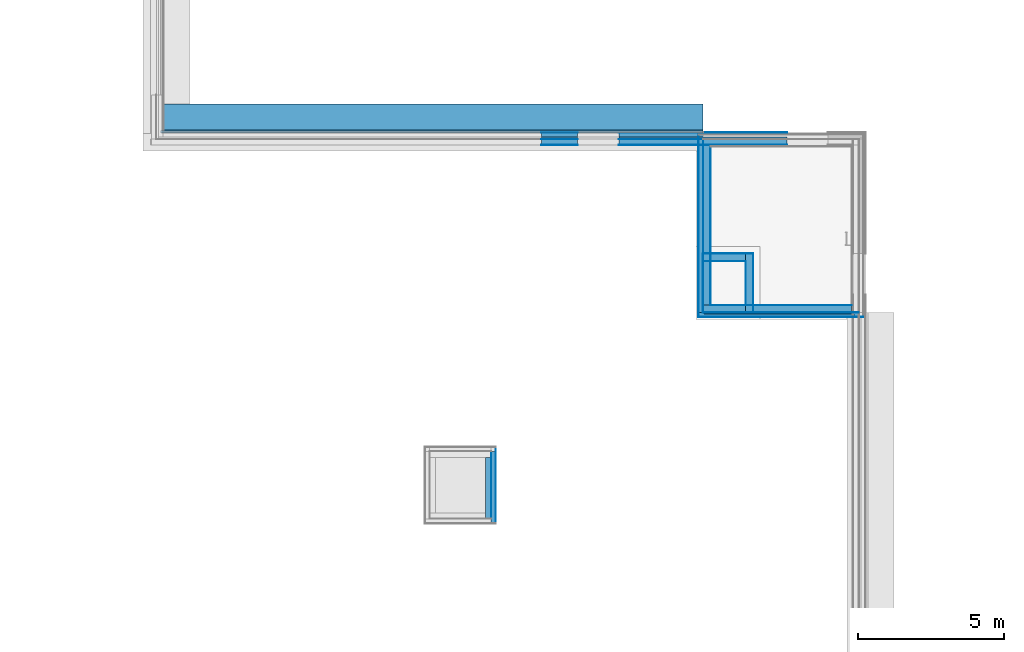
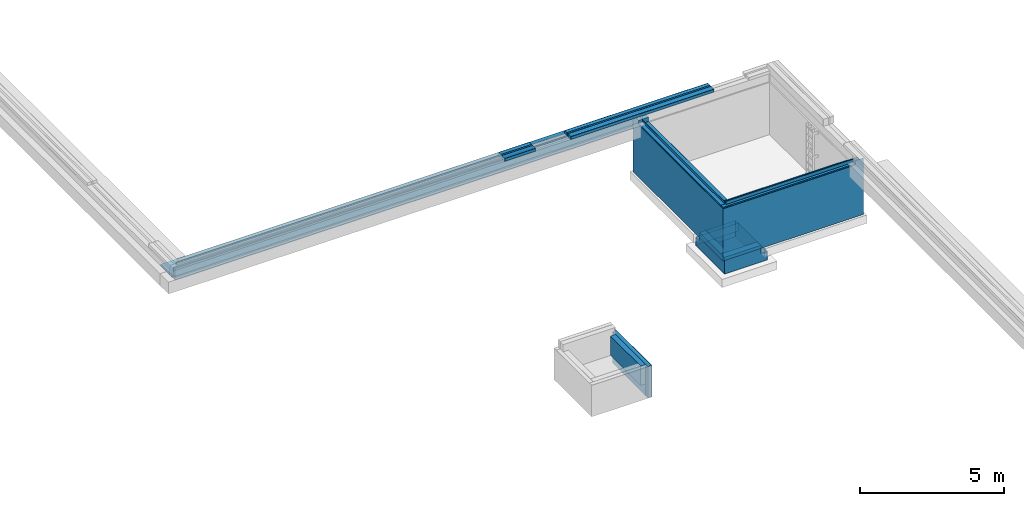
# One storey, part 7 of 17: 45 building element parts, 10 elements without a shape of their own.
"""IFC2X3 building model written with IfcOpenShell, lengths in millimetres."""

from ifc_helpers import new_model, entity, si_unit, converted_unit, derived_unit, money_unit, direction, frame, origin_with_axes, place, context, subcontext, project, spatial, faceted_brep, material, type_object, element, aggregate, save


model = new_model("IFC2X3")

# Units and contexts
model_context = context("Model", 3, precision=0.01, world=origin_with_axes(), true_north=direction((0.0, 1.0)))
body_context = subcontext(model_context, "Body", "Model", "MODEL_VIEW")
ifc_project = project(units=[si_unit("LENGTHUNIT", "METRE", prefix="MILLI"), si_unit("AREAUNIT", "SQUARE_METRE"), si_unit("VOLUMEUNIT", "CUBIC_METRE"), converted_unit("PLANEANGLEUNIT", "DEGREE", entity("IfcPlaneAngleMeasure", 0.0174532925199), si_unit("PLANEANGLEUNIT", "RADIAN"), dimensions=[0, 0, 0, 0, 0, 0, 0]), money_unit("EUR"), converted_unit("TIMEUNIT", "Year", entity("IfcTimeMeasure", 31556926.0), si_unit("TIMEUNIT", "SECOND"), dimensions=[0, 0, 1, 0, 0, 0, 0]), si_unit("MASSUNIT", "GRAM", prefix="KILO"), si_unit("THERMODYNAMICTEMPERATUREUNIT", "DEGREE_CELSIUS"), si_unit("LUMINOUSINTENSITYUNIT", "LUMEN"), si_unit("ENERGYUNIT", "JOULE", prefix="MEGA"), derived_unit("THERMALCONDUCTANCEUNIT", [(si_unit("POWERUNIT", "WATT"), 1), (si_unit("LENGTHUNIT", "METRE"), -1), (si_unit("THERMODYNAMICTEMPERATUREUNIT", "KELVIN"), -1)]), derived_unit("SPECIFICHEATCAPACITYUNIT", [(si_unit("ENERGYUNIT", "JOULE"), 1), (si_unit("MASSUNIT", "GRAM", prefix="KILO"), -1), (si_unit("THERMODYNAMICTEMPERATUREUNIT", "KELVIN"), -1)]), derived_unit("MASSDENSITYUNIT", [(si_unit("MASSUNIT", "GRAM", prefix="KILO"), 1), (si_unit("VOLUMEUNIT", "CUBIC_METRE"), -1)])], contexts=[model_context])

# Site, building, storey
site_placement = place(None, origin_with_axes())
site = spatial("IfcSite", under=ifc_project, at=site_placement, Name="Kolde pst 67a", CompositionType="ELEMENT")
building_placement = place(site_placement, origin_with_axes())
building = spatial("IfcBuilding", under=site, at=building_placement, Name="Riigigümnaasium", CompositionType="ELEMENT")
storey_placement = place(building_placement, frame((0.0, 0.0, -1500.0), z_axis=(0.0, 0.0, 1.0), x_axis=(1.0, 0.0, 0.0)))
storey = spatial("IfcBuildingStorey", under=building, at=storey_placement, Name="Vundament", CompositionType="ELEMENT", Elevation=-1500.0)

# Wall, building element parts
wall_type_1 = type_object("IfcWallType", Name="VS-RB-20/3_lintvundament 363", PredefinedType="NOTDEFINED")
wall_1_placement = place(storey_placement, frame((47874.9854607, 49769.9999599, -135.3), z_axis=(0.0, 0.0, 1.0), x_axis=(0.0, -1.0, 0.0)))
wall_1 = element("IfcWall", 1, at=wall_1_placement, inside=storey, type_object=wall_type_1, Name="Liftišaht")
ifc_material_1 = material(Name="_ALUSKATE - drenaaži- ja kaitsematt geotekstiiliga soojustuse kaitseks, Interplast Iso-Drain 8 Geo või samaväärne")
building_element_part_1_placement = place(wall_1_placement, origin_with_axes())
building_element_part_1 = element("IfcBuildingElementPart", 2, at=building_element_part_1_placement, material=ifc_material_1, Name="_ALUSKATE - drenaaži- ja kaitsematt geotekstiiliga soojustuse kaitseks, Interplast Iso-Drain 8 Geo või samaväärne", context=body_context, shape_type="Brep", body=[
    faceted_brep([(2463.0, 163.0, 1335.1), (-153.0, 163.0, 1335.1), (-153.0, 153.0, 1335.1), (2463.0, 153.0, 1335.1), (2463.0, 163.0, 0.0), (-153.0, 163.0, 0.0), (-153.0, 153.0, 0.0), (2463.0, 153.0, 0.0)], [[[0, 1, 2, 3]], [[4, 5, 1, 0]], [[2, 1, 5, 6]], [[3, 2, 6, 7]], [[3, 7, 4, 0]], [[7, 6, 5, 4]]]),
])
ifc_material_2 = material(Name="_SOOJUSTUS - vahtpolüstüreenplaadid EPS 120 Perimeeter, survetugevus min. 120kPa, veeimavus <2%, soojuserijuhtivus λD<0,036 W/(mK)")
building_element_part_2_placement = place(wall_1_placement, origin_with_axes())
building_element_part_2 = element("IfcBuildingElementPart", 3, at=building_element_part_2_placement, material=ifc_material_2, Name="_SOOJUSTUS - vahtpolüstüreenplaadid EPS 120 Perimeeter, survetugevus min. 120kPa, veeimavus <2%, soojuserijuhtivus λD<0,036 W/(mK)", context=body_context, shape_type="Brep", body=[
    faceted_brep([(2453.0, 153.0, 1335.1), (-3.0, 153.0, 1335.1), (-3.0, 3.0, 1335.1), (2453.0, 3.0, 1335.1), (2453.0, 153.0, 0.0), (-3.0, 153.0, 0.0), (-3.0, 3.0, 0.0), (2453.0, 3.0, 0.0)], [[[0, 1, 2, 3]], [[4, 5, 1, 0]], [[2, 1, 5, 6]], [[3, 2, 6, 7]], [[3, 7, 4, 0]], [[7, 6, 5, 4]]]),
])
ifc_material_3 = material(Name="_HÜDROISOLATSIOON - 3x SBS rullmaterjal vastavalt TL2 nõuetele, nakke tugevduseks betoonpind eelnevalt katta hüdroisolatsiooni bituumenvõõbaga")
building_element_part_3_placement = place(wall_1_placement, origin_with_axes())
building_element_part_3 = element("IfcBuildingElementPart", 4, at=building_element_part_3_placement, material=ifc_material_3, Name="_HÜDROISOLATSIOON - 3x SBS rullmaterjal vastavalt TL2 nõuetele, nakke tugevduseks betoonpind eelnevalt katta hüdroisolatsiooni bituumenvõõbaga", context=body_context, shape_type="Brep", body=[
    faceted_brep([(2303.0, 0.0, 1335.1), (2303.0, 3.0, 1335.1), (0.0, 3.0, 1335.1), (0.0, 0.0, 1335.1), (2303.0, 0.0, 0.0), (2303.0, 3.0, 0.0), (0.0, 3.0, 0.0), (0.0, 0.0, 0.0)], [[[0, 1, 2, 3]], [[1, 0, 4, 5]], [[1, 5, 6, 2]], [[7, 3, 2, 6]], [[4, 0, 3, 7]], [[5, 4, 7, 6]]]),
])
ifc_material_4 = material(Name="_KANDETARIND - monoliitne raudbetoon vastavalt EK osale")
building_element_part_4_placement = place(wall_1_placement, origin_with_axes())
building_element_part_4 = element("IfcBuildingElementPart", 5, at=building_element_part_4_placement, material=ifc_material_4, Name="_KANDETARIND - monoliitne raudbetoon vastavalt EK osale", context=body_context, shape_type="Brep", body=[
    faceted_brep([(2300.0, 0.0, 515.3), (200.0, 0.0, 515.3), (200.0, 0.0, 1335.1), (2300.0, 0.0, 1335.1), (200.0, -200.0, 515.3), (2300.0, -200.0, 515.3), (200.0, -200.0, 1335.1), (2300.0, -200.0, 1335.1)], [[[0, 1, 2, 3]], [[4, 1, 0, 5]], [[1, 4, 6, 2]], [[7, 3, 2, 6]], [[5, 0, 3, 7]], [[4, 5, 7, 6]]]),
])
aggregate(wall_1, [building_element_part_1, building_element_part_2, building_element_part_3, building_element_part_4])

wall_type_2 = type_object("IfcWallType", Name="Lintvundament 1602 x 765", PredefinedType="NOTDEFINED")
wall_2_placement = place(storey_placement, frame((55116.9820755, 60440.0001843, 1479.99999851), z_axis=(0.0, 0.0, 1.0), x_axis=(-1.0, 0.0, 0.0)))
wall_2 = element("IfcWall", 6, at=wall_2_placement, inside=storey, type_object=wall_type_2, Name="Vundament")
ifc_material_5 = material(Name="_SOOJUSTUS - vahtpolüstüreenplaadid EPS 120 Perimeeter, survetugevus min 120kPa, veeimavus <2%, soojuserijuhtivus λD<0,036 W/(mK)")
building_element_part_5_placement = place(wall_2_placement, origin_with_axes())
building_element_part_5 = element("IfcBuildingElementPart", 7, at=building_element_part_5_placement, material=ifc_material_5, Name="_SOOJUSTUS - vahtpolüstüreenplaadid EPS 120 Perimeeter, survetugevus min 120kPa, veeimavus <2%, soojuserijuhtivus λD<0,036 W/(mK)", context=body_context, shape_type="Brep", body=[
    faceted_brep([(18533.9254105, -303.057446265, -629.93015656), (18533.9254105, -303.057446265, -247.000007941), (0.0, -303.057446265, -246.99999851), (0.0, -303.057446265, -633.422240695), (18433.9253592, -303.057446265, -633.422240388), (18533.9254105, -203.057444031, -247.000007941), (18533.9254105, -203.057444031, -629.93015656), (0.0, -203.057444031, -246.99999851), (0.0, -203.057444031, -629.930162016)], [[[0, 1, 2, 3, 4]], [[5, 1, 0, 6]], [[1, 5, 7, 2]], [[3, 2, 7, 8]], [[6, 4, 3, 8]], [[6, 0, 4]], [[5, 6, 8, 7]]]),
])
building_element_part_6_placement = place(wall_2_placement, origin_with_axes())
building_element_part_6 = element("IfcBuildingElementPart", 8, at=building_element_part_6_placement, material=ifc_material_1, Name="_ALUSKATE - drenaaži- ja kaitsematt geotekstiiliga soojustuse kaitseks, Interplast Iso-Drain 8 Geo või samaväärne", context=body_context, shape_type="Brep", body=[
    faceted_brep([(18441.9828428, -313.057436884, -146.999993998), (18441.9828428, -313.057436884, -137.030570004), (0.0, -313.057436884, -137.030570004), (0.0, -313.057436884, -633.771447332), (18423.925396, -313.057436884, -633.771447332), (18433.9254023, -313.057436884, -633.422240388), (18433.9254049, -313.057436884, -146.999997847), (18441.9828428, -245.000004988, -137.030570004), (18441.9828428, -234.999993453, -146.999993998), (18441.9828428, -234.999993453, -29.9999946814), (18441.9828428, -245.000004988, -29.9999946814), (0.0, -245.000004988, -137.030570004), (0.0, -303.057440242, -146.999992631), (0.0, -303.057440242, -633.422236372), (0.0, -245.000004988, -29.9999946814), (0.0, -234.999993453, -29.9999946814), (0.0, -234.999993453, -146.999992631), (18433.9254023, -303.057440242, -633.422240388), (18433.9254049, -303.057440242, -146.999997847)], [[[0, 1, 2, 3, 4, 5, 6]], [[7, 1, 0, 8, 9, 10]], [[1, 7, 11, 2]], [[12, 13, 3, 2, 11, 14, 15, 16]], [[17, 4, 3, 13]], [[17, 5, 4]], [[5, 17, 18, 6]], [[8, 0, 6, 18, 12, 16]], [[9, 8, 16, 15]], [[10, 9, 15, 14]], [[7, 10, 14, 11]], [[13, 12, 18, 17]]]),
])
building_element_part_7_placement = place(wall_2_placement, origin_with_axes())
building_element_part_7 = element("IfcBuildingElementPart", 9, at=building_element_part_7_placement, material=ifc_material_5, Name="_SOOJUSTUS - vahtpolüstüreenplaadid EPS 120 Perimeeter, survetugevus min 120kPa, veeimavus <2%, soojuserijuhtivus λD<0,036 W/(mK)", context=body_context, shape_type="Brep", body=[
    faceted_brep([(18533.9254122, -203.057444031, -729.999992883), (18533.9254121, -203.057444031, -629.93015656), (18533.9254121, -313.057436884, -633.771447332), (18533.9254122, -1202.46588158, -664.830269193), (18533.9254122, -1200.19010474, -729.999992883), (0.0, -203.057444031, -729.999997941), (0.0, -203.057444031, -629.93015656), (0.0, -313.057436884, -633.771447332), (0.0, -1202.46588158, -664.830269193), (0.0, -1198.97593138, -764.769370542), (17538.0069265, -1198.97593138, -764.769370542), (17961.0538662, -1199.49168851, -750.000015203), (17961.0538662, -775.928984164, -750.000015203)], [[[0, 1, 2, 3, 4]], [[1, 0, 5, 6]], [[1, 6, 7, 2]], [[3, 2, 7, 8]], [[8, 9, 10, 11, 4, 3]], [[4, 11, 10, 12, 0]], [[5, 0, 12, 10, 9]], [[8, 7, 6, 5, 9]]]),
])
aggregate(wall_2, [building_element_part_5, building_element_part_6, building_element_part_7])

wall_type_3 = type_object("IfcWallType", Name="VS-RB-20/2_sokkel  443", PredefinedType="NOTDEFINED")
wall_3_placement = place(storey_placement, frame((50826.0353447, 60440.0001843, 1480.0), z_axis=(0.0, 0.0, 1.0), x_axis=(-1.0, 0.0, 0.0)))
wall_3 = element("IfcWall", 10, at=wall_3_placement, inside=storey, type_object=wall_type_3, Name="Sokkel")
ifc_material_6 = material(Name="_VIIMISTLUSKIHT - viimistlus vastavalt SA osale")
building_element_part_8_placement = place(wall_3_placement, origin_with_axes())
building_element_part_8 = element("IfcBuildingElementPart", 11, at=building_element_part_8_placement, material=ifc_material_6, Name="_VIIMISTLUSKIHT - viimistlus vastavalt SA osale", context=body_context, shape_type="Brep", body=[
    faceted_brep([(1236.02528927, 210.0, 0.0), (1236.02528927, 200.0, 0.0), (0.0, 200.0, 0.0), (0.0, 210.0, 0.0), (1236.02528927, 210.0, 120.0), (1236.02528927, 200.0, 120.0), (0.0, 200.0, 120.0), (0.0, 210.0, 120.0)], [[[0, 1, 2, 3]], [[0, 4, 5, 1]], [[1, 5, 6, 2]], [[3, 2, 6, 7]], [[4, 0, 3, 7]], [[5, 4, 7, 6]]]),
])
ifc_material_7 = material(Name="_KANDETARIND - monteeritav raudbetoon vastavalt EK osale")
building_element_part_9_placement = place(wall_3_placement, origin_with_axes())
building_element_part_9 = element("IfcBuildingElementPart", 12, at=building_element_part_9_placement, material=ifc_material_7, Name="_KANDETARIND - monteeritav raudbetoon vastavalt EK osale", context=body_context, shape_type="Brep", body=[
    faceted_brep([(1236.02528927, 200.0, 0.0), (1236.02528927, 0.0, 0.0), (0.0, 0.0, 0.0), (0.0, 200.0, 0.0), (1236.02528927, 200.0, 120.0), (1236.02528927, 0.0, 120.0), (0.0, 0.0, 120.0), (0.0, 200.0, 120.0)], [[[0, 1, 2, 3]], [[0, 4, 5, 1]], [[1, 5, 6, 2]], [[3, 2, 6, 7]], [[4, 0, 3, 7]], [[5, 4, 7, 6]]]),
])
building_element_part_10_placement = place(wall_3_placement, origin_with_axes())
building_element_part_10 = element("IfcBuildingElementPart", 13, at=building_element_part_10_placement, material=ifc_material_3, Name="_HÜDROISOLATSIOON - 3x SBS rullmaterjal vastavalt TL2 nõuetele, nakke tugevduseks betoonpind eelnevalt katta hüdroisolatsiooni bituumenvõõbaga", context=body_context, shape_type="Brep", body=[
    faceted_brep([(1236.02528927, 0.0, 0.0), (1236.02528927, -3.0, 0.0), (0.0, -3.0, 0.0), (0.0, 0.0, 0.0), (1236.02528927, 0.0, 120.0), (1236.02528927, -3.0, 120.0), (0.0, -3.0, 120.0), (0.0, 0.0, 120.0)], [[[0, 1, 2, 3]], [[0, 4, 5, 1]], [[1, 5, 6, 2]], [[3, 2, 6, 7]], [[4, 0, 3, 7]], [[5, 4, 7, 6]]]),
])
ifc_material_8 = material(Name="_SOOJUSTUS - ekstrudeeritud polüstüreenist plaadid XPS 250, survetugevus min 250kPa, soojuserijuhtivus λD<0,036 W/(mK), veeimavus alla 0,2%, näiteks XPS 250 foam SL või samaväärne")
building_element_part_11_placement = place(wall_3_placement, origin_with_axes())
building_element_part_11 = element("IfcBuildingElementPart", 14, at=building_element_part_11_placement, material=ifc_material_8, Name="_SOOJUSTUS - ekstrudeeritud polüstüreenist plaadid XPS 250, survetugevus min 250kPa, soojuserijuhtivus λD<0,036 W/(mK), veeimavus alla 0,2%, näiteks XPS 250 foam SL või samaväärne", context=body_context, shape_type="Brep", body=[
    faceted_brep([(1236.02528927, -3.0, 0.0), (1236.02528927, -73.0, 0.0), (0.0, -73.0, 0.0), (0.0, -3.0, 0.0), (1236.02528927, -3.0, 120.0), (1236.02528927, -73.0, 120.0), (0.0, -73.0, 120.0), (0.0, -3.0, 120.0)], [[[0, 1, 2, 3]], [[0, 4, 5, 1]], [[1, 5, 6, 2]], [[3, 2, 6, 7]], [[4, 0, 3, 7]], [[5, 4, 7, 6]]]),
])
building_element_part_12_placement = place(wall_3_placement, origin_with_axes())
building_element_part_12 = element("IfcBuildingElementPart", 15, at=building_element_part_12_placement, material=ifc_material_5, Name="_SOOJUSTUS - vahtpolüstüreenplaadid EPS 120 Perimeeter, survetugevus min 120kPa, veeimavus <2%, soojuserijuhtivus λD<0,036 W/(mK)", context=body_context, shape_type="Brep", body=[
    faceted_brep([(1236.02528927, -73.0, 0.0), (1236.02528927, -223.0, 0.0), (0.0, -223.0, 0.0), (0.0, -73.0, 0.0), (1236.02528927, -73.0, 120.0), (1236.02528927, -223.0, 120.0), (0.0, -223.0, 120.0), (0.0, -73.0, 120.0)], [[[0, 1, 2, 3]], [[0, 4, 5, 1]], [[1, 5, 6, 2]], [[3, 2, 6, 7]], [[4, 0, 3, 7]], [[5, 4, 7, 6]]]),
])
ifc_material_9 = material(Name="_TUULETÕKE - sokli krohv, silikoonvaikkrohv Weber.pas 481 AquaBalance 1mm \"scratch\" viimistlus, toon helehall CL444 (S 3502-Y) * 35, SILS süsteem, või samaväärne")
building_element_part_13_placement = place(wall_3_placement, origin_with_axes())
building_element_part_13 = element("IfcBuildingElementPart", 16, at=building_element_part_13_placement, material=ifc_material_9, Name="_TUULETÕKE - sokli krohv, silikoonvaikkrohv Weber.pas 481 AquaBalance 1mm \"scratch\" viimistlus, toon helehall CL444 (S 3502-Y) * 35, SILS süsteem, või samaväärne", context=body_context, shape_type="Brep", body=[
    faceted_brep([(1236.02528927, -223.0, 0.0), (1236.02528927, -233.0, 0.0), (0.0, -233.0, 0.0), (0.0, -223.0, 0.0), (1236.02528927, -223.0, 120.0), (1236.02528927, -233.0, 120.0), (0.0, -233.0, 120.0), (0.0, -223.0, 120.0)], [[[0, 1, 2, 3]], [[0, 4, 5, 1]], [[1, 5, 6, 2]], [[3, 2, 6, 7]], [[4, 0, 3, 7]], [[5, 4, 7, 6]]]),
])
aggregate(wall_3, [building_element_part_8, building_element_part_9, building_element_part_10, building_element_part_11, building_element_part_12, building_element_part_13])

wall_4_placement = place(storey_placement, frame((57983.2053324, 60440.0001843, 1480.0), z_axis=(0.0, 0.0, 1.0), x_axis=(-1.0, 0.0, 0.0)))
wall_4 = element("IfcWall", 17, at=wall_4_placement, inside=storey, type_object=wall_type_3, Name="Sokkel")
building_element_part_14_placement = place(wall_4_placement, origin_with_axes())
building_element_part_14 = element("IfcBuildingElementPart", 18, at=building_element_part_14_placement, material=ifc_material_6, Name="_VIIMISTLUSKIHT - viimistlus vastavalt SA osale", context=body_context, shape_type="Brep", body=[
    faceted_brep([(5740.77902513, 210.0, 0.0), (5740.77902513, 200.0, 0.0), (0.0, 200.0, 0.0), (0.0, 210.0, 0.0), (5740.77902513, 210.0, 120.0), (5740.77902513, 200.0, 120.0), (0.0, 200.0, 120.0), (0.0, 210.0, 120.0)], [[[0, 1, 2, 3]], [[0, 4, 5, 1]], [[1, 5, 6, 2]], [[3, 2, 6, 7]], [[4, 0, 3, 7]], [[5, 4, 7, 6]]]),
])
building_element_part_15_placement = place(wall_4_placement, origin_with_axes())
building_element_part_15 = element("IfcBuildingElementPart", 19, at=building_element_part_15_placement, material=ifc_material_7, Name="_KANDETARIND - monteeritav raudbetoon vastavalt EK osale", context=body_context, shape_type="Brep", body=[
    faceted_brep([(5740.77902513, 200.0, 0.0), (5740.77902513, 0.0, 0.0), (0.0, 0.0, 0.0), (0.0, 200.0, 0.0), (5740.77902513, 200.0, 120.0), (5740.77902513, 0.0, 120.0), (0.0, 0.0, 120.0), (0.0, 200.0, 120.0)], [[[0, 1, 2, 3]], [[0, 4, 5, 1]], [[1, 5, 6, 2]], [[3, 2, 6, 7]], [[4, 0, 3, 7]], [[5, 4, 7, 6]]]),
])
building_element_part_16_placement = place(wall_4_placement, origin_with_axes())
building_element_part_16 = element("IfcBuildingElementPart", 20, at=building_element_part_16_placement, material=ifc_material_3, Name="_HÜDROISOLATSIOON - 3x SBS rullmaterjal vastavalt TL2 nõuetele, nakke tugevduseks betoonpind eelnevalt katta hüdroisolatsiooni bituumenvõõbaga", context=body_context, shape_type="Brep", body=[
    faceted_brep([(5740.77902513, 0.0, 0.0), (5740.77902513, -3.0, 0.0), (0.0, -3.0, 0.0), (0.0, 0.0, 0.0), (5740.77902513, 0.0, 120.0), (5740.77902513, -3.0, 120.0), (0.0, -3.0, 120.0), (0.0, 0.0, 120.0)], [[[0, 1, 2, 3]], [[0, 4, 5, 1]], [[1, 5, 6, 2]], [[3, 2, 6, 7]], [[4, 0, 3, 7]], [[5, 4, 7, 6]]]),
])
building_element_part_17_placement = place(wall_4_placement, origin_with_axes())
building_element_part_17 = element("IfcBuildingElementPart", 21, at=building_element_part_17_placement, material=ifc_material_8, Name="_SOOJUSTUS - ekstrudeeritud polüstüreenist plaadid XPS 250, survetugevus min 250kPa, soojuserijuhtivus λD<0,036 W/(mK), veeimavus alla 0,2%, näiteks XPS 250 foam SL või samaväärne", context=body_context, shape_type="Brep", body=[
    faceted_brep([(5740.77902513, -3.0, 0.0), (5740.77902513, -73.0, 0.0), (0.0, -73.0, 0.0), (0.0, -3.0, 0.0), (5740.77902513, -3.0, 120.0), (5740.77902513, -73.0, 120.0), (0.0, -73.0, 120.0), (0.0, -3.0, 120.0)], [[[0, 1, 2, 3]], [[0, 4, 5, 1]], [[1, 5, 6, 2]], [[3, 2, 6, 7]], [[4, 0, 3, 7]], [[5, 4, 7, 6]]]),
])
building_element_part_18_placement = place(wall_4_placement, origin_with_axes())
building_element_part_18 = element("IfcBuildingElementPart", 22, at=building_element_part_18_placement, material=ifc_material_5, Name="_SOOJUSTUS - vahtpolüstüreenplaadid EPS 120 Perimeeter, survetugevus min 120kPa, veeimavus <2%, soojuserijuhtivus λD<0,036 W/(mK)", context=body_context, shape_type="Brep", body=[
    faceted_brep([(5740.77902513, -73.0, 0.0), (5740.77902513, -223.0, 0.0), (0.0, -223.0, 0.0), (0.0, -73.0, 0.0), (5740.77902513, -73.0, 120.0), (5740.77902513, -223.0, 120.0), (0.0, -223.0, 120.0), (0.0, -73.0, 120.0)], [[[0, 1, 2, 3]], [[0, 4, 5, 1]], [[1, 5, 6, 2]], [[3, 2, 6, 7]], [[4, 0, 3, 7]], [[5, 4, 7, 6]]]),
])
building_element_part_19_placement = place(wall_4_placement, origin_with_axes())
building_element_part_19 = element("IfcBuildingElementPart", 23, at=building_element_part_19_placement, material=ifc_material_9, Name="_TUULETÕKE - sokli krohv, silikoonvaikkrohv Weber.pas 481 AquaBalance 1mm \"scratch\" viimistlus, toon helehall CL444 (S 3502-Y) * 35, SILS süsteem, või samaväärne", context=body_context, shape_type="Brep", body=[
    faceted_brep([(5740.77902513, -223.0, 0.0), (5740.77902513, -233.0, 0.0), (0.0, -233.0, 0.0), (0.0, -223.0, 0.0), (5740.77902513, -223.0, 120.0), (5740.77902513, -233.0, 120.0), (0.0, -233.0, 120.0), (0.0, -223.0, 120.0)], [[[0, 1, 2, 3]], [[0, 4, 5, 1]], [[1, 5, 6, 2]], [[3, 2, 6, 7]], [[4, 0, 3, 7]], [[5, 4, 7, 6]]]),
])
aggregate(wall_4, [building_element_part_14, building_element_part_15, building_element_part_16, building_element_part_17, building_element_part_18, building_element_part_19])

wall_type_4 = type_object("IfcWallType", Name="VS-RB-25/1_mahuti sein 416", PredefinedType="NOTDEFINED")
wall_5_placement = place(storey_placement, frame((60439.9941222, 54520.0000583, -1065.2), z_axis=(0.0, 0.0, 1.0), x_axis=(-1.0, 0.0, 0.0)))
wall_5 = element("IfcWall", 24, at=wall_5_placement, inside=storey, type_object=wall_type_4, Name="Mahuti sein")
building_element_part_20_placement = place(wall_5_placement, origin_with_axes())
building_element_part_20 = element("IfcBuildingElementPart", 25, at=building_element_part_20_placement, material=ifc_material_1, Name="_ALUSKATE - drenaaži- ja kaitsematt geotekstiiliga soojustuse kaitseks, Interplast Iso-Drain 8 Geo või samaväärne", context=body_context, shape_type="Brep", body=[
    faceted_brep([(5486.01204667, 153.0, 2215.0), (173.733601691, 153.0, 2215.0), (173.733601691, 153.0, 2400.1), (-153.0, 153.0, 2400.1), (-153.0, 153.0, 0.0), (5486.01204667, 153.0, 0.0), (5486.01204667, 163.0, 2215.0), (173.733601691, 163.0, 2215.0), (173.733601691, 163.0, 2400.1), (-153.0, 163.0, 2400.1), (-153.0, 163.0, 0.0), (5486.01204667, 163.0, 0.0)], [[[0, 1, 2, 3, 4, 5]], [[1, 0, 6, 7]], [[2, 1, 7, 8]], [[2, 8, 9, 3]], [[4, 3, 9, 10]], [[11, 5, 4, 10]], [[6, 0, 5, 11]], [[7, 6, 11, 10, 9, 8]]]),
])
building_element_part_21_placement = place(wall_5_placement, origin_with_axes())
building_element_part_21 = element("IfcBuildingElementPart", 26, at=building_element_part_21_placement, material=ifc_material_8, Name="_SOOJUSTUS - ekstrudeeritud polüstüreenist plaadid XPS 250, survetugevus min 250kPa, soojuserijuhtivus λD<0,036 W/(mK), veeimavus alla 0,2%, näiteks XPS 250 foam SL või samaväärne", context=body_context, shape_type="Brep", body=[
    faceted_brep([(5296.74562016, 50.0, 2400.1), (5296.74562016, 50.0, 2265.0), (173.733601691, 50.0, 2265.0), (173.733601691, 50.0, 2400.1), (5296.74562016, 3.0, 2265.0), (5296.74562016, 3.0, 2400.1), (5476.01204667, 153.0, 2265.0), (173.733601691, 153.0, 2265.0), (5476.01204667, 3.0, 2265.0), (173.733601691, 153.0, 2400.1), (-3.0, 153.0, 2400.1), (-3.0, 3.0, 2400.1), (-3.0, 3.0, 0.0), (5476.01204667, 3.0, 0.0), (5476.01204667, 153.0, 0.0), (-3.0, 153.0, 0.0)], [[[0, 1, 2, 3]], [[4, 1, 0, 5]], [[6, 7, 2, 1, 4, 8]], [[3, 2, 7, 9]], [[5, 0, 3, 9, 10, 11]], [[4, 5, 11, 12, 13, 8]], [[7, 6, 14, 15, 10, 9]], [[6, 8, 13, 14]], [[12, 11, 10, 15]], [[14, 13, 12, 15]]]),
])
ifc_material_10 = material(Name="_HÜDROISOLATSIOON/RADOONITÕKE - eelpaigaldatav elastne hüdroisolatsioonimembraan, värske betooniga nakkuv, radoonitihe, FORSOC PROOFEX 3000 või samaväärne")
building_element_part_22_placement = place(wall_5_placement, origin_with_axes())
building_element_part_22 = element("IfcBuildingElementPart", 27, at=building_element_part_22_placement, material=ifc_material_10, Name="_HÜDROISOLATSIOON/RADOONITÕKE - eelpaigaldatav elastne hüdroisolatsioonimembraan, värske betooniga nakkuv, radoonitihe, FORSOC PROOFEX 3000 või samaväärne", context=body_context, shape_type="Brep", body=[
    faceted_brep([(5326.01204667, 0.0, 2365.0), (5296.74562016, 0.0, 2365.0), (5296.74562016, 0.0, 2400.1), (0.0, 0.0, 2400.1), (0.0, 0.0, 0.0), (5326.01204667, 0.0, 0.0), (5326.01204667, 3.0, 2365.0), (5296.74562016, 3.0, 2365.0), (5296.74562016, 3.0, 2400.1), (0.0, 3.0, 2400.1), (0.0, 3.0, 0.0), (5326.01204667, 3.0, 0.0)], [[[0, 1, 2, 3, 4, 5]], [[1, 0, 6, 7]], [[2, 1, 7, 8]], [[2, 8, 9, 3]], [[4, 3, 9, 10]], [[11, 5, 4, 10]], [[6, 0, 5, 11]], [[7, 6, 11, 10, 9, 8]]]),
])
ifc_material_11 = material(Name="_KANDETARIND - monoliitne raudbetoonplaat")
building_element_part_23_placement = place(wall_5_placement, origin_with_axes())
building_element_part_23 = element("IfcBuildingElementPart", 28, at=building_element_part_23_placement, material=ifc_material_11, Name="_KANDETARIND - monoliitne raudbetoonplaat", context=body_context, shape_type="Brep", body=[
    faceted_brep([(5323.01204667, -250.0, 2215.0), (250.0, -250.0, 2215.0), (250.0, -250.0, 0.0), (5323.01204667, -250.0, 0.0), (250.0, 0.0, 2215.0), (5323.01204667, 0.0, 2215.0), (250.0, 0.0, 0.0), (5323.01204667, 0.0, 0.0)], [[[0, 1, 2, 3]], [[4, 1, 0, 5]], [[1, 4, 6, 2]], [[7, 3, 2, 6]], [[5, 0, 3, 7]], [[4, 5, 7, 6]]]),
])
building_element_part_24_placement = place(wall_5_placement, origin_with_axes())
building_element_part_24 = element("IfcBuildingElementPart", 29, at=building_element_part_24_placement, material=ifc_material_10, Name="_HÜDROISOLATSIOON/RADOONITÕKE - eelpaigaldatav elastne hüdroisolatsioonimembraan, värske betooniga nakkuv, radoonitihe, FORSOC PROOFEX 3000 või samaväärne", context=body_context, shape_type="Brep", body=[
    faceted_brep([(5073.01204667, -253.0, 2215.0), (253.0, -253.0, 2215.0), (253.0, -253.0, 0.0), (5073.01204667, -253.0, 0.0), (253.0, -250.0, 2215.0), (5073.01204667, -250.0, 2215.0), (253.0, -250.0, 0.0), (5073.01204667, -250.0, 0.0)], [[[0, 1, 2, 3]], [[4, 1, 0, 5]], [[1, 4, 6, 2]], [[7, 3, 2, 6]], [[5, 0, 3, 7]], [[4, 5, 7, 6]]]),
])
aggregate(wall_5, [building_element_part_20, building_element_part_21, building_element_part_22, building_element_part_23, building_element_part_24])

wall_6_placement = place(storey_placement, frame((55116.9820755, 54520.0000583, -1065.2), z_axis=(0.0, 0.0, 1.0), x_axis=(0.0, 1.0, 0.0)))
wall_6 = element("IfcWall", 30, at=wall_6_placement, inside=storey, type_object=wall_type_4, Name="Mahuti sein")
building_element_part_25_placement = place(wall_6_placement, origin_with_axes())
building_element_part_25 = element("IfcBuildingElementPart", 31, at=building_element_part_25_placement, material=ifc_material_1, Name="_ALUSKATE - drenaaži- ja kaitsematt geotekstiiliga soojustuse kaitseks, Interplast Iso-Drain 8 Geo või samaväärne", context=body_context, shape_type="Brep", body=[
    faceted_brep([(5720.48152417, 163.0, 2400.1), (5720.48152417, 163.0, 2215.0), (5720.48178384, 153.0, 2215.0), (5720.48178384, 153.0, 2400.1), (6083.00012603, 163.0, 2400.1), (6083.00012603, 163.0, 0.0), (-153.0, 163.0, 0.0), (-153.0, 163.0, 2215.0), (-153.0, 153.0, 2215.0), (-153.0, 153.0, 0.0), (6083.00012603, 153.0, 0.0), (6083.00012603, 153.0, 2400.1)], [[[0, 1, 2, 3]], [[1, 0, 4, 5, 6, 7]], [[8, 2, 1, 7]], [[2, 8, 9, 10, 11, 3]], [[0, 3, 11, 4]], [[4, 11, 10, 5]], [[5, 10, 9, 6]], [[8, 7, 6, 9]]]),
])
building_element_part_26_placement = place(wall_6_placement, origin_with_axes())
building_element_part_26 = element("IfcBuildingElementPart", 32, at=building_element_part_26_placement, material=ifc_material_8, Name="_SOOJUSTUS - ekstrudeeritud polüstüreenist plaadid XPS 250, survetugevus min 250kPa, soojuserijuhtivus λD<0,036 W/(mK), veeimavus alla 0,2%, näiteks XPS 250 foam SL või samaväärne", context=body_context, shape_type="Brep", body=[
    faceted_brep([(5720.48178384, 153.0, 2400.1), (5720.48178384, 153.0, 2265.0), (5720.48567887, 3.0, 2265.0), (5720.48567887, 3.0, 2400.1), (6073.00012603, 153.0, 2400.1), (6073.00012603, 153.0, 0.0), (-3.0, 153.0, 0.0), (-3.0, 153.0, 2265.0), (-3.0, 3.0, 2265.0), (-3.0, 3.0, 0.0), (6073.00012603, 3.0, 0.0), (6073.00012603, 3.0, 2400.1)], [[[0, 1, 2, 3]], [[1, 0, 4, 5, 6, 7]], [[8, 2, 1, 7]], [[2, 8, 9, 10, 11, 3]], [[0, 3, 11, 4]], [[4, 11, 10, 5]], [[5, 10, 9, 6]], [[8, 7, 6, 9]]]),
])
building_element_part_27_placement = place(wall_6_placement, origin_with_axes())
building_element_part_27 = element("IfcBuildingElementPart", 33, at=building_element_part_27_placement, material=ifc_material_10, Name="_HÜDROISOLATSIOON/RADOONITÕKE - eelpaigaldatav elastne hüdroisolatsioonimembraan, värske betooniga nakkuv, radoonitihe, FORSOC PROOFEX 3000 või samaväärne", context=body_context, shape_type="Brep", body=[
    faceted_brep([(5720.48567887, 3.0, 2400.1), (5720.48567887, 3.0, 2365.0), (5720.48575677, 0.0, 2365.0), (5720.48575677, 0.0, 2400.1), (5923.00012603, 3.0, 2400.1), (5923.00012603, 3.0, 0.0), (0.0, 3.0, 0.0), (0.0, 3.0, 2365.0), (0.0, 0.0, 2365.0), (0.0, 0.0, 0.0), (5923.00012603, 0.0, 0.0), (5923.00012603, 0.0, 2400.1)], [[[0, 1, 2, 3]], [[1, 0, 4, 5, 6, 7]], [[8, 2, 1, 7]], [[2, 8, 9, 10, 11, 3]], [[0, 3, 11, 4]], [[4, 11, 10, 5]], [[5, 10, 9, 6]], [[8, 7, 6, 9]]]),
])
building_element_part_28_placement = place(wall_6_placement, origin_with_axes())
building_element_part_28 = element("IfcBuildingElementPart", 34, at=building_element_part_28_placement, material=ifc_material_11, Name="_KANDETARIND - monoliitne raudbetoonplaat", context=body_context, shape_type="Brep", body=[
    faceted_brep([(5720.00012603, 0.0, 2400.1), (5720.00012603, -250.0, 2400.1), (5920.00012603, -250.0, 2400.1), (5920.00012603, 0.0, 2400.1), (5720.00012603, -250.0, 2215.0), (5720.00012603, 0.0, 2215.0), (250.0, -250.0, 2215.0), (250.0, -250.0, 0.0), (5920.00012603, -250.0, 0.0), (5920.00012603, 0.0, 0.0), (250.0, 0.0, 0.0), (250.0, 0.0, 2215.0)], [[[0, 1, 2, 3]], [[4, 1, 0, 5]], [[4, 6, 7, 8, 2, 1]], [[3, 2, 8, 9]], [[5, 0, 3, 9, 10, 11]], [[6, 4, 5, 11]], [[6, 11, 10, 7]], [[9, 8, 7, 10]]]),
])
building_element_part_29_placement = place(wall_6_placement, origin_with_axes())
building_element_part_29 = element("IfcBuildingElementPart", 35, at=building_element_part_29_placement, material=ifc_material_10, Name="_HÜDROISOLATSIOON/RADOONITÕKE - eelpaigaldatav elastne hüdroisolatsioonimembraan, värske betooniga nakkuv, radoonitihe, FORSOC PROOFEX 3000 või samaväärne", context=body_context, shape_type="Brep", body=[
    faceted_brep([(5670.00012603, -250.0, 2215.0), (5670.00012603, -253.0, 2215.0), (5670.00012603, -253.0, 0.0), (5670.00012603, -250.0, 0.0), (253.0, -253.0, 2215.0), (253.0, -250.0, 2215.0), (253.0, -253.0, 0.0), (253.0, -250.0, 0.0)], [[[0, 1, 2, 3]], [[4, 1, 0, 5]], [[1, 4, 6, 2]], [[3, 2, 6, 7]], [[5, 0, 3, 7]], [[4, 5, 7, 6]]]),
])
aggregate(wall_6, [building_element_part_25, building_element_part_26, building_element_part_27, building_element_part_28, building_element_part_29])

wall_type_5 = type_object("IfcWallType", Name="VS-RB-25/2_mahuti sein soojustamata 266", PredefinedType="NOTDEFINED")
wall_7_placement = place(storey_placement, frame((56823.0142027, 54520.0000583, -1765.2), z_axis=(0.0, 0.0, 1.0), x_axis=(0.0, 1.0, 0.0)))
wall_7 = element("IfcWall", 36, at=wall_7_placement, inside=storey, type_object=wall_type_5, Name="Mahuti sein")
building_element_part_30_placement = place(wall_7_placement, origin_with_axes())
building_element_part_30 = element("IfcBuildingElementPart", 37, at=building_element_part_30_placement, material=ifc_material_10, Name="_HÜDROISOLATSIOON/RADOONITÕKE - eelpaigaldatav elastne hüdroisolatsioonimembraan, värske betooniga nakkuv, radoonitihe, FORSOC PROOFEX 3000 või samaväärne", context=body_context, shape_type="Brep", body=[
    faceted_brep([(1753.0, 250.0, 0.0), (250.0, 250.0, 0.0), (250.0, 253.0, 0.0), (1753.0, 253.0, 0.0), (1753.0, 250.0, 700.0), (250.0, 250.0, 700.0), (250.0, 253.0, 700.0), (1753.0, 253.0, 700.0)], [[[0, 1, 2, 3]], [[4, 5, 1, 0]], [[2, 1, 5, 6]], [[3, 2, 6, 7]], [[3, 7, 4, 0]], [[7, 6, 5, 4]]]),
])
building_element_part_31_placement = place(wall_7_placement, origin_with_axes())
building_element_part_31 = element("IfcBuildingElementPart", 38, at=building_element_part_31_placement, material=ifc_material_11, Name="_KANDETARIND - monoliitne raudbetoonplaat", context=body_context, shape_type="Brep", body=[
    faceted_brep([(2003.0, 250.0, 350.0), (2003.0, 0.0, 350.0), (2003.0, 0.0, 0.0), (2003.0, 250.0, 0.0), (0.0, 0.0, 350.0), (0.0, 250.0, 350.0), (0.0, 0.0, 0.0), (0.0, 250.0, 0.0)], [[[0, 1, 2, 3]], [[4, 1, 0, 5]], [[1, 4, 6, 2]], [[3, 2, 6, 7]], [[5, 0, 3, 7]], [[4, 5, 7, 6]]]),
])
building_element_part_32_placement = place(wall_7_placement, origin_with_axes())
building_element_part_32 = element("IfcBuildingElementPart", 39, at=building_element_part_32_placement, material=ifc_material_10, Name="_HÜDROISOLATSIOON/RADOONITÕKE - eelpaigaldatav elastne hüdroisolatsioonimembraan, värske betooniga nakkuv, radoonitihe, FORSOC PROOFEX 3000 või samaväärne", context=body_context, shape_type="Brep", body=[
    faceted_brep([(2006.0, 0.0, 350.0), (2006.0, -3.0, 350.0), (2006.0, -3.0, 0.0), (2006.0, 0.0, 0.0), (-3.0, -3.0, 350.0), (-3.0, 0.0, 350.0), (-3.0, -3.0, 0.0), (-3.0, 0.0, 0.0)], [[[0, 1, 2, 3]], [[4, 1, 0, 5]], [[1, 4, 6, 2]], [[3, 2, 6, 7]], [[5, 0, 3, 7]], [[4, 5, 7, 6]]]),
])
building_element_part_33_placement = place(wall_7_placement, origin_with_axes())
building_element_part_33 = element("IfcBuildingElementPart", 40, at=building_element_part_33_placement, material=ifc_material_1, Name="_ALUSKATE - drenaaži- ja kaitsematt geotekstiiliga soojustuse kaitseks, Interplast Iso-Drain 8 Geo või samaväärne", context=body_context, shape_type="Brep", body=[
    faceted_brep([(2016.0, -3.0, 350.0), (2016.0, -13.0, 350.0), (2016.0, -13.0, 0.0), (2016.0, -3.0, 0.0), (-13.0, -13.0, 350.0), (-13.0, -3.0, 350.0), (-13.0, -13.0, 0.0), (-13.0, -3.0, 0.0)], [[[0, 1, 2, 3]], [[4, 1, 0, 5]], [[1, 4, 6, 2]], [[3, 2, 6, 7]], [[5, 0, 3, 7]], [[4, 5, 7, 6]]]),
])
aggregate(wall_7, [building_element_part_30, building_element_part_31, building_element_part_32, building_element_part_33])

wall_8_placement = place(storey_placement, frame((56823.0142027, 56523.0000583, -1765.2), z_axis=(0.0, 0.0, 1.0), x_axis=(-1.0, 0.0, 0.0)))
wall_8 = element("IfcWall", 41, at=wall_8_placement, inside=storey, type_object=wall_type_5, Name="Mahuti sein")
building_element_part_34_placement = place(wall_8_placement, origin_with_axes())
building_element_part_34 = element("IfcBuildingElementPart", 42, at=building_element_part_34_placement, material=ifc_material_10, Name="_HÜDROISOLATSIOON/RADOONITÕKE - eelpaigaldatav elastne hüdroisolatsioonimembraan, värske betooniga nakkuv, radoonitihe, FORSOC PROOFEX 3000 või samaväärne", context=body_context, shape_type="Brep", body=[
    faceted_brep([(1706.03212711, 253.0, 0.0), (1706.03212711, 250.0, 0.0), (253.0, 250.0, 0.0), (253.0, 253.0, 0.0), (1706.03212711, 253.0, 700.0), (1706.03212711, 250.0, 700.0), (253.0, 250.0, 700.0), (253.0, 253.0, 700.0)], [[[0, 1, 2, 3]], [[0, 4, 5, 1]], [[1, 5, 6, 2]], [[3, 2, 6, 7]], [[4, 0, 3, 7]], [[5, 4, 7, 6]]]),
])
building_element_part_35_placement = place(wall_8_placement, origin_with_axes())
building_element_part_35 = element("IfcBuildingElementPart", 43, at=building_element_part_35_placement, material=ifc_material_11, Name="_KANDETARIND - monoliitne raudbetoonplaat", context=body_context, shape_type="Brep", body=[
    faceted_brep([(1706.03212711, 0.0, 350.0), (250.0, 0.0, 350.0), (250.0, 0.0, 0.0), (1706.03212711, 0.0, 0.0), (250.0, 250.0, 350.0), (1706.03212711, 250.0, 350.0), (250.0, 250.0, 0.0), (1706.03212711, 250.0, 0.0)], [[[0, 1, 2, 3]], [[4, 1, 0, 5]], [[1, 4, 6, 2]], [[6, 7, 3, 2]], [[5, 0, 3, 7]], [[4, 5, 7, 6]]]),
])
building_element_part_36_placement = place(wall_8_placement, origin_with_axes())
building_element_part_36 = element("IfcBuildingElementPart", 44, at=building_element_part_36_placement, material=ifc_material_10, Name="_HÜDROISOLATSIOON/RADOONITÕKE - eelpaigaldatav elastne hüdroisolatsioonimembraan, värske betooniga nakkuv, radoonitihe, FORSOC PROOFEX 3000 või samaväärne", context=body_context, shape_type="Brep", body=[
    faceted_brep([(1706.03212711, -3.0, 350.0), (0.0, -3.0, 350.0), (0.0, -3.0, 0.0), (1706.03212711, -3.0, 0.0), (0.0, 0.0, 350.0), (1706.03212711, 0.0, 350.0), (0.0, 0.0, 0.0), (1706.03212711, 0.0, 0.0)], [[[0, 1, 2, 3]], [[4, 1, 0, 5]], [[1, 4, 6, 2]], [[6, 7, 3, 2]], [[5, 0, 3, 7]], [[4, 5, 7, 6]]]),
])
building_element_part_37_placement = place(wall_8_placement, origin_with_axes())
building_element_part_37 = element("IfcBuildingElementPart", 45, at=building_element_part_37_placement, material=ifc_material_1, Name="_ALUSKATE - drenaaži- ja kaitsematt geotekstiiliga soojustuse kaitseks, Interplast Iso-Drain 8 Geo või samaväärne", context=body_context, shape_type="Brep", body=[
    faceted_brep([(1706.03212711, -13.0, 350.0), (-3.0, -13.0, 350.0), (-3.0, -13.0, 0.0), (1706.03212711, -13.0, 0.0), (-3.0, -3.0, 350.0), (1706.03212711, -3.0, 350.0), (-3.0, -3.0, 0.0), (1706.03212711, -3.0, 0.0)], [[[0, 1, 2, 3]], [[4, 1, 0, 5]], [[1, 4, 6, 2]], [[6, 7, 3, 2]], [[5, 0, 3, 7]], [[4, 5, 7, 6]]]),
])
aggregate(wall_8, [building_element_part_34, building_element_part_35, building_element_part_36, building_element_part_37])

wall_9_placement = place(storey_placement, frame((56823.0142027, 54520.0000583, -1765.2), z_axis=(0.0, 0.0, 1.0), x_axis=(-1.0, 0.0, 0.0)))
wall_9 = element("IfcWall", 46, at=wall_9_placement, inside=storey, type_object=wall_type_5, Name="Mahuti sein")
building_element_part_38_placement = place(wall_9_placement, origin_with_axes())
building_element_part_38 = element("IfcBuildingElementPart", 47, at=building_element_part_38_placement, material=ifc_material_1, Name="_ALUSKATE - drenaaži- ja kaitsematt geotekstiiliga soojustuse kaitseks, Interplast Iso-Drain 8 Geo või samaväärne", context=body_context, shape_type="Brep", body=[
    faceted_brep([(252.957433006, 3.0, 700.0), (252.957433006, 3.0, 350.0), (-3.0, 3.0, 350.0), (-3.0, 3.0, 0.0), (1719.03212711, 3.0, 0.0), (1719.03212711, 3.0, 700.0), (252.957433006, 13.0, 700.0), (252.957433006, 13.0, 350.0), (-3.0, 13.0, 350.0), (-3.0, 13.0, 0.0), (1719.03212711, 13.0, 0.0), (1719.03212711, 13.0, 700.0)], [[[0, 1, 2, 3, 4, 5]], [[1, 0, 6, 7]], [[8, 2, 1, 7]], [[2, 8, 9, 3]], [[10, 4, 3, 9]], [[11, 5, 4, 10]], [[6, 0, 5, 11]], [[7, 6, 11, 10, 9, 8]]]),
])
building_element_part_39_placement = place(wall_9_placement, origin_with_axes())
building_element_part_39 = element("IfcBuildingElementPart", 48, at=building_element_part_39_placement, material=ifc_material_10, Name="_HÜDROISOLATSIOON/RADOONITÕKE - eelpaigaldatav elastne hüdroisolatsioonimembraan, värske betooniga nakkuv, radoonitihe, FORSOC PROOFEX 3000 või samaväärne", context=body_context, shape_type="Brep", body=[
    faceted_brep([(252.957433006, 0.0, 700.0), (252.957433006, 0.0, 350.0), (0.0, 0.0, 350.0), (0.0, 0.0, 0.0), (1709.03212711, 0.0, 0.0), (1709.03212711, 0.0, 700.0), (252.957433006, 3.0, 700.0), (252.957433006, 3.0, 350.0), (0.0, 3.0, 350.0), (0.0, 3.0, 0.0), (1709.03212711, 3.0, 0.0), (1709.03212711, 3.0, 700.0)], [[[0, 1, 2, 3, 4, 5]], [[1, 0, 6, 7]], [[8, 2, 1, 7]], [[2, 8, 9, 3]], [[10, 4, 3, 9]], [[11, 5, 4, 10]], [[6, 0, 5, 11]], [[7, 6, 11, 10, 9, 8]]]),
])
building_element_part_40_placement = place(wall_9_placement, origin_with_axes())
building_element_part_40 = element("IfcBuildingElementPart", 49, at=building_element_part_40_placement, material=ifc_material_11, Name="_KANDETARIND - monoliitne raudbetoonplaat", context=body_context, shape_type="Brep", body=[
    faceted_brep([(252.957433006, -250.0, 700.0), (252.957433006, -250.0, 350.0), (250.0, -250.0, 350.0), (250.0, -250.0, 0.0), (1706.03212711, -250.0, 0.0), (1706.03212711, -250.0, 700.0), (252.957433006, 0.0, 700.0), (252.957433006, 0.0, 350.0), (250.0, 0.0, 350.0), (250.0, 0.0, 0.0), (1706.03212711, 0.0, 0.0), (1706.03212711, 0.0, 700.0)], [[[0, 1, 2, 3, 4, 5]], [[1, 0, 6, 7]], [[8, 2, 1, 7]], [[2, 8, 9, 3]], [[10, 4, 3, 9]], [[11, 5, 4, 10]], [[6, 0, 5, 11]], [[7, 6, 11, 10, 9, 8]]]),
])
building_element_part_41_placement = place(wall_9_placement, origin_with_axes())
building_element_part_41 = element("IfcBuildingElementPart", 50, at=building_element_part_41_placement, material=ifc_material_10, Name="_HÜDROISOLATSIOON/RADOONITÕKE - eelpaigaldatav elastne hüdroisolatsioonimembraan, värske betooniga nakkuv, radoonitihe, FORSOC PROOFEX 3000 või samaväärne", context=body_context, shape_type="Brep", body=[
    faceted_brep([(1456.03212711, -253.0, 700.0), (1456.03212711, -250.0, 700.0), (253.0, -250.0, 700.0), (253.0, -253.0, 700.0), (1456.03212711, -253.0, 0.0), (1456.03212711, -250.0, 0.0), (253.0, -250.0, 0.0), (253.0, -253.0, 0.0)], [[[0, 1, 2, 3]], [[1, 0, 4, 5]], [[1, 5, 6, 2]], [[7, 3, 2, 6]], [[4, 0, 3, 7]], [[5, 4, 7, 6]]]),
])
aggregate(wall_9, [building_element_part_38, building_element_part_39, building_element_part_40, building_element_part_41])

wall_10_placement = place(storey_placement, frame((55116.9820755, 54520.0000583, -1765.2), z_axis=(0.0, 0.0, 1.0), x_axis=(0.0, 1.0, 0.0)))
wall_10 = element("IfcWall", 51, at=wall_10_placement, inside=storey, type_object=wall_type_5, Name="Mahuti sein")
building_element_part_42_placement = place(wall_10_placement, origin_with_axes())
building_element_part_42 = element("IfcBuildingElementPart", 52, at=building_element_part_42_placement, material=ifc_material_1, Name="_ALUSKATE - drenaaži- ja kaitsematt geotekstiiliga soojustuse kaitseks, Interplast Iso-Drain 8 Geo või samaväärne", context=body_context, shape_type="Brep", body=[
    faceted_brep([(2000.0, 13.0, 350.0), (2000.0, 3.0, 350.0), (2000.0, 3.0, 0.0), (2000.0, 13.0, 0.0), (1750.19034354, 3.0, 350.0), (1750.19034354, 13.0, 350.0), (1750.19034354, 3.0, 700.0), (-3.0, 3.0, 700.0), (-3.0, 3.0, 0.0), (-3.0, 13.0, 0.0), (-3.0, 13.0, 700.0), (1750.19034354, 13.0, 700.0)], [[[0, 1, 2, 3]], [[4, 1, 0, 5]], [[4, 6, 7, 8, 2, 1]], [[9, 3, 2, 8]], [[5, 0, 3, 9, 10, 11]], [[11, 6, 4, 5]], [[6, 11, 10, 7]], [[8, 7, 10, 9]]]),
])
building_element_part_43_placement = place(wall_10_placement, origin_with_axes())
building_element_part_43 = element("IfcBuildingElementPart", 53, at=building_element_part_43_placement, material=ifc_material_10, Name="_HÜDROISOLATSIOON/RADOONITÕKE - eelpaigaldatav elastne hüdroisolatsioonimembraan, värske betooniga nakkuv, radoonitihe, FORSOC PROOFEX 3000 või samaväärne", context=body_context, shape_type="Brep", body=[
    faceted_brep([(2000.0, 3.0, 350.0), (2000.0, 0.0, 350.0), (2000.0, 0.0, 0.0), (2000.0, 3.0, 0.0), (1750.19034354, 0.0, 350.0), (1750.19034354, 3.0, 350.0), (1750.19034354, 0.0, 700.0), (0.0, 0.0, 700.0), (0.0, 0.0, 0.0), (0.0, 3.0, 0.0), (0.0, 3.0, 700.0), (1750.19034354, 3.0, 700.0)], [[[0, 1, 2, 3]], [[4, 1, 0, 5]], [[4, 6, 7, 8, 2, 1]], [[9, 3, 2, 8]], [[5, 0, 3, 9, 10, 11]], [[11, 6, 4, 5]], [[6, 11, 10, 7]], [[8, 7, 10, 9]]]),
])
building_element_part_44_placement = place(wall_10_placement, origin_with_axes())
building_element_part_44 = element("IfcBuildingElementPart", 54, at=building_element_part_44_placement, material=ifc_material_11, Name="_KANDETARIND - monoliitne raudbetoonplaat", context=body_context, shape_type="Brep", body=[
    faceted_brep([(2000.0, 0.0, 350.0), (2000.0, -250.0, 350.0), (2000.0, -250.0, 0.0), (2000.0, 0.0, 0.0), (1750.19034354, -250.0, 350.0), (1750.19034354, 0.0, 350.0), (1750.19034354, -250.0, 700.0), (250.0, -250.0, 700.0), (250.0, -250.0, 0.0), (250.0, 0.0, 0.0), (250.0, 0.0, 700.0), (1750.19034354, 0.0, 700.0)], [[[0, 1, 2, 3]], [[4, 1, 0, 5]], [[4, 6, 7, 8, 2, 1]], [[9, 3, 2, 8]], [[5, 0, 3, 9, 10, 11]], [[11, 6, 4, 5]], [[6, 11, 10, 7]], [[8, 7, 10, 9]]]),
])
building_element_part_45_placement = place(wall_10_placement, origin_with_axes())
building_element_part_45 = element("IfcBuildingElementPart", 55, at=building_element_part_45_placement, material=ifc_material_10, Name="_HÜDROISOLATSIOON/RADOONITÕKE - eelpaigaldatav elastne hüdroisolatsioonimembraan, värske betooniga nakkuv, radoonitihe, FORSOC PROOFEX 3000 või samaväärne", context=body_context, shape_type="Brep", body=[
    faceted_brep([(2000.0, -250.0, 350.0), (2000.0, -253.0, 350.0), (2000.0, -253.0, 0.0), (2000.0, -250.0, 0.0), (1750.19034354, -253.0, 350.0), (1750.19034354, -250.0, 350.0), (1750.19034354, -253.0, 700.0), (253.0, -253.0, 700.0), (253.0, -253.0, 0.0), (253.0, -250.0, 0.0), (253.0, -250.0, 700.0), (1750.19034354, -250.0, 700.0)], [[[0, 1, 2, 3]], [[4, 1, 0, 5]], [[4, 6, 7, 8, 2, 1]], [[9, 3, 2, 8]], [[5, 0, 3, 9, 10, 11]], [[11, 6, 4, 5]], [[6, 11, 10, 7]], [[8, 7, 10, 9]]]),
])
aggregate(wall_10, [building_element_part_42, building_element_part_43, building_element_part_44, building_element_part_45])

save(model, "model.ifc")
